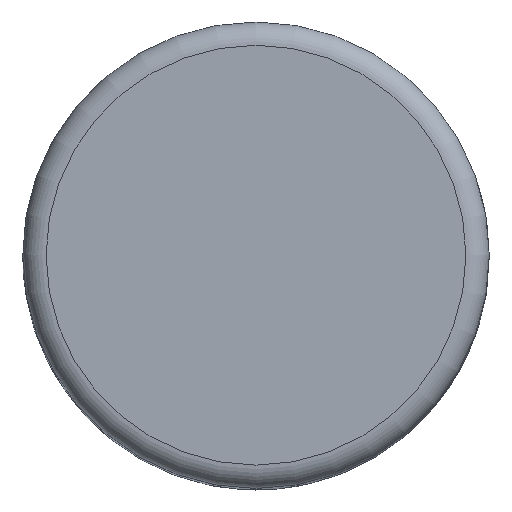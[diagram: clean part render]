
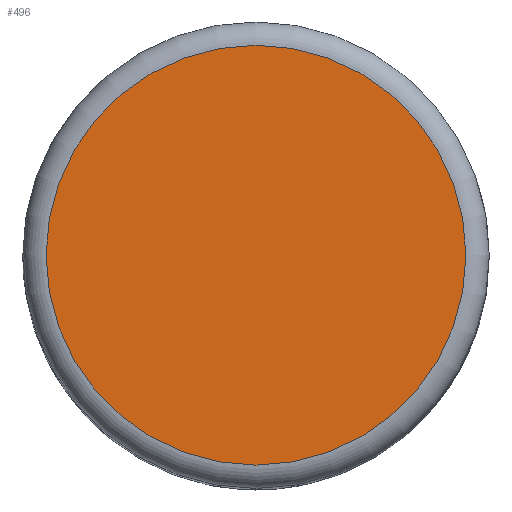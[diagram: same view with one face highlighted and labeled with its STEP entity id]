
A CAD part, top view. The second image highlights one B-rep face of the part: STEP entity #496.
In plain terms, the highlighted planar face has unit normal (0, 0, 1).
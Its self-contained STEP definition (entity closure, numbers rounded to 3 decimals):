
#475 = VERTEX_POINT('',#476);
#476 = CARTESIAN_POINT('',(3.6,0.,16.));
#485 = EDGE_CURVE('',#475,#475,#486,.T.);
#486 = CIRCLE('',#487,3.6);
#487 = AXIS2_PLACEMENT_3D('',#488,#489,#490);
#488 = CARTESIAN_POINT('',(0.,0.,16.));
#489 = DIRECTION('',(0.,0.,1.));
#490 = DIRECTION('',(1.,0.,0.));
#496 = ADVANCED_FACE('',(#497),#500,.T.);
#497 = FACE_BOUND('',#498,.T.);
#498 = EDGE_LOOP('',(#499));
#499 = ORIENTED_EDGE('',*,*,#485,.T.);
#500 = PLANE('',#501);
#501 = AXIS2_PLACEMENT_3D('',#502,#503,#504);
#502 = CARTESIAN_POINT('',(0.,0.,16.));
#503 = DIRECTION('',(0.,0.,1.));
#504 = DIRECTION('',(1.,0.,0.));
